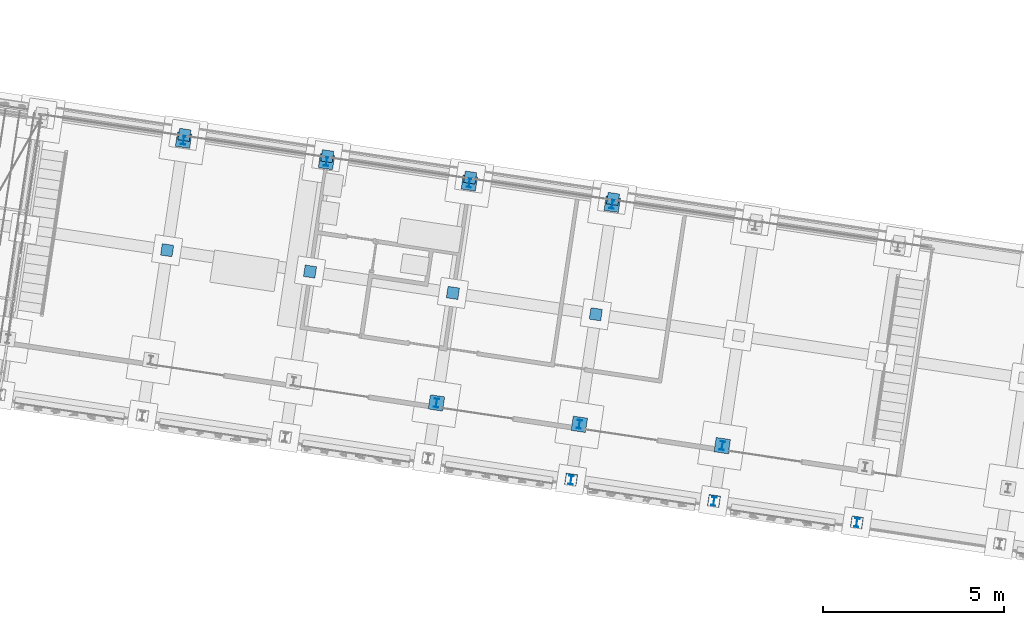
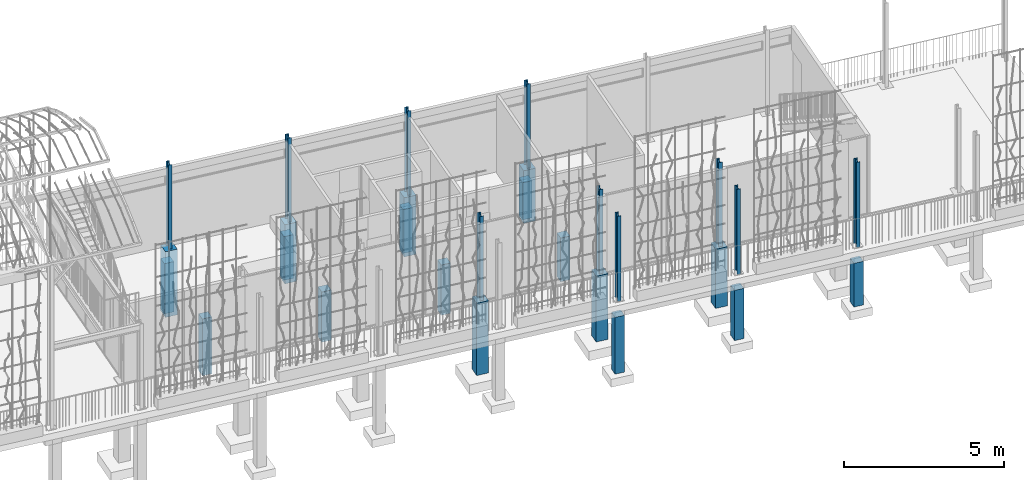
# One storey, part 5 of 143: 28 columns, 1 element without a shape of its own.
"""IFC4 building model written with IfcOpenShell, lengths in metres."""

from ifc_helpers import new_model, si_unit, direction, frame, origin_with_axes, place, context, subcontext, project, spatial, polyline, i_section, outline, extrude, material, material_profile, profile_set, profile_usage, type_object, element, aggregate, save


model = new_model("IFC4")

# Units and contexts
model_context = context("Model", 3, precision=1e-05, world=origin_with_axes(), true_north=direction((0.0, 1.0)))
body_context = subcontext(model_context, "Body", "Model", "MODEL_VIEW")
ifc_project = project(units=[si_unit("VOLUMEUNIT", "CUBIC_METRE"), si_unit("LENGTHUNIT", "METRE"), si_unit("AREAUNIT", "SQUARE_METRE")], contexts=[model_context])

# Site, building, storey
site_placement = place(None, origin_with_axes())
site = spatial("IfcSite", under=ifc_project, at=site_placement, Name="Lares · Rua das Mercês · artigo 4771")
building_placement = place(site_placement, frame((15.0, 9.7, 15.8), z_axis=(0.0, 0.0, 1.0), x_axis=(0.989015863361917, -0.147809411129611, 0.0)))
building = spatial("IfcBuilding", under=site, at=building_placement, Name="Casa Sobreposta")
storey_placement = place(building_placement, origin_with_axes())
storey = spatial("IfcBuildingStorey", under=building, at=storey_placement, Name="00 · Habitação e estacionamento", Elevation=15.8)

# Columns
ifc_material_1 = material(Name="Aço pintado / Stahl lackiert", Category="steel")
ifc_material_profile = material_profile(ifc_material_1, i_section(OverallWidth=0.12, OverallDepth=0.24, WebThickness=0.0062, FlangeThickness=0.0098))
ifc_profile_set = profile_set([ifc_material_profile], Name="IPE240")
ifc_profile_usage_1 = profile_usage(ifc_profile_set)
column_type = type_object("IfcColumnType", Name="IPE240 / steel", PredefinedType="NOTDEFINED", material=ifc_profile_set)
column_1_placement = place(storey_placement, frame((4.0, 6.28, 0.0), z_axis=(0.0, 0.0, 1.0), x_axis=(1.0, 0.0, 0.0)))
element("IfcColumn", 1, at=column_1_placement, inside=storey, type_object=column_type, material=ifc_profile_usage_1, Name="Pilar 2B · IPE240", context=body_context, shape_type="SweptSolid", body=[
    extrude(i_section(OverallWidth=0.12, OverallDepth=0.24, WebThickness=0.0062, FlangeThickness=0.0098), origin_with_axes(), (0.0, 0.0, 1.0), 3.208),
])
ifc_profile_usage_2 = profile_usage(ifc_profile_set)
column_2_placement = place(storey_placement, frame((8.0, 6.28, 0.0), z_axis=(0.0, 0.0, 1.0), x_axis=(1.0, 0.0, 0.0)))
element("IfcColumn", 2, at=column_2_placement, inside=storey, type_object=column_type, material=ifc_profile_usage_2, Name="Pilar 3B · IPE240", context=body_context, shape_type="SweptSolid", body=[
    extrude(i_section(OverallWidth=0.12, OverallDepth=0.24, WebThickness=0.0062, FlangeThickness=0.0098), origin_with_axes(), (0.0, 0.0, 1.0), 3.208),
])
ifc_profile_usage_3 = profile_usage(ifc_profile_set)
column_3_placement = place(storey_placement, frame((12.0, 0.12, 0.0), z_axis=(0.0, 0.0, 1.0), x_axis=(1.0, 0.0, 0.0)))
element("IfcColumn", 3, at=column_3_placement, inside=storey, type_object=column_type, material=ifc_profile_usage_3, Name="Pilar 4A · IPE240", context=body_context, shape_type="SweptSolid", body=[
    extrude(i_section(OverallWidth=0.12, OverallDepth=0.24, WebThickness=0.0062, FlangeThickness=0.0098), origin_with_axes(), (0.0, 0.0, 1.0), 3.208),
])
ifc_profile_usage_4 = profile_usage(ifc_profile_set)
column_4_placement = place(storey_placement, frame((12.0, 6.28, 0.0), z_axis=(0.0, 0.0, 1.0), x_axis=(1.0, 0.0, 0.0)))
element("IfcColumn", 4, at=column_4_placement, inside=storey, type_object=column_type, material=ifc_profile_usage_4, Name="Pilar 4B · IPE240", context=body_context, shape_type="SweptSolid", body=[
    extrude(i_section(OverallWidth=0.12, OverallDepth=0.24, WebThickness=0.0062, FlangeThickness=0.0098), origin_with_axes(), (0.0, 0.0, 1.0), 3.208),
])
ifc_profile_usage_5 = profile_usage(ifc_profile_set)
column_5_placement = place(storey_placement, frame((16.0, 0.12, 0.0), z_axis=(0.0, 0.0, 1.0), x_axis=(1.0, 0.0, 0.0)))
element("IfcColumn", 5, at=column_5_placement, inside=storey, type_object=column_type, material=ifc_profile_usage_5, Name="Pilar 5A · IPE240", context=body_context, shape_type="SweptSolid", body=[
    extrude(i_section(OverallWidth=0.12, OverallDepth=0.24, WebThickness=0.0062, FlangeThickness=0.0098), origin_with_axes(), (0.0, 0.0, 1.0), 3.208),
])
ifc_profile_usage_6 = profile_usage(ifc_profile_set)
column_6_placement = place(storey_placement, frame((16.0, 6.28, 0.0), z_axis=(0.0, 0.0, 1.0), x_axis=(1.0, 0.0, 0.0)))
element("IfcColumn", 6, at=column_6_placement, inside=storey, type_object=column_type, material=ifc_profile_usage_6, Name="Pilar 5B · IPE240", context=body_context, shape_type="SweptSolid", body=[
    extrude(i_section(OverallWidth=0.12, OverallDepth=0.24, WebThickness=0.0062, FlangeThickness=0.0098), origin_with_axes(), (0.0, 0.0, 1.0), 3.208),
])
ifc_profile_usage_7 = profile_usage(ifc_profile_set)
column_7_placement = place(storey_placement, frame((20.0, 0.12, 0.0), z_axis=(0.0, 0.0, 1.0), x_axis=(1.0, 0.0, 0.0)))
element("IfcColumn", 7, at=column_7_placement, inside=storey, type_object=column_type, material=ifc_profile_usage_7, Name="Pilar 6A · IPE240", context=body_context, shape_type="SweptSolid", body=[
    extrude(i_section(OverallWidth=0.12, OverallDepth=0.24, WebThickness=0.0062, FlangeThickness=0.0098), origin_with_axes(), (0.0, 0.0, 1.0), 3.208),
])
ifc_profile_usage_8 = profile_usage(ifc_profile_set)
column_8_placement = place(storey_placement, frame((16.0, -1.44, -0.04), z_axis=(0.0, 0.0, 1.0), x_axis=(1.0, 0.0, 0.0)))
element("IfcColumn", 8, at=column_8_placement, inside=storey, type_object=column_type, material=ifc_profile_usage_8, Name="Projeção estufa · pilar sul ao pódio", context=body_context, shape_type="SweptSolid", body=[
    extrude(i_section(OverallWidth=0.12, OverallDepth=0.24, WebThickness=0.0062, FlangeThickness=0.0098), origin_with_axes(), (0.0, 0.0, 1.0), 3.248),
])
ifc_profile_usage_9 = profile_usage(ifc_profile_set)
column_9_placement = place(storey_placement, frame((20.0, -1.44, -0.04), z_axis=(0.0, 0.0, 1.0), x_axis=(1.0, 0.0, 0.0)))
element("IfcColumn", 9, at=column_9_placement, inside=storey, type_object=column_type, material=ifc_profile_usage_9, Name="Projeção estufa · pilar sul ao pódio", context=body_context, shape_type="SweptSolid", body=[
    extrude(i_section(OverallWidth=0.12, OverallDepth=0.24, WebThickness=0.0062, FlangeThickness=0.0098), origin_with_axes(), (0.0, 0.0, 1.0), 3.248),
])
ifc_profile_usage_10 = profile_usage(ifc_profile_set)
column_10_placement = place(storey_placement, frame((24.0, -1.44, -0.04), z_axis=(0.0, 0.0, 1.0), x_axis=(1.0, 0.0, 0.0)))
element("IfcColumn", 10, at=column_10_placement, inside=storey, type_object=column_type, material=ifc_profile_usage_10, Name="Projeção estufa · pilar sul ao pódio", context=body_context, shape_type="SweptSolid", body=[
    extrude(i_section(OverallWidth=0.12, OverallDepth=0.24, WebThickness=0.0062, FlangeThickness=0.0098), origin_with_axes(), (0.0, 0.0, 1.0), 3.248),
])
ifc_material_2 = material(Name="Betão armado / Stahlbeton", Category="concrete")
column_11_placement = place(storey_placement, frame((0.0, 0.0, -2.5), z_axis=(0.0, 0.0, 1.0), x_axis=(1.0, 0.0, 0.0)))
element("IfcColumn", 11, at=column_11_placement, inside=storey, material=ifc_material_2, Name="Pedestal 2B · betão 400 x 400", context=body_context, shape_type="SweptSolid", body=[
    extrude(outline(polyline([(4.2, 6.08), (4.2, 6.48), (3.8, 6.48), (3.8, 6.08), (4.2, 6.08)])), origin_with_axes(), (0.0, 0.0, 1.0), 2.5),
])
column_12_placement = place(storey_placement, frame((0.0, 0.0, -2.25), z_axis=(0.0, 0.0, 1.0), x_axis=(1.0, 0.0, 0.0)))
element("IfcColumn", 12, at=column_12_placement, inside=storey, material=ifc_material_2, Name="Pedestal 3B · betão 400 x 400", context=body_context, shape_type="SweptSolid", body=[
    extrude(outline(polyline([(8.2, 6.08), (8.2, 6.48), (7.8, 6.48), (7.8, 6.08), (8.2, 6.08)])), origin_with_axes(), (0.0, 0.0, 1.0), 2.25),
])
column_13_placement = place(storey_placement, frame((0.0, 0.0, -2.75), z_axis=(0.0, 0.0, 1.0), x_axis=(1.0, 0.0, 0.0)))
element("IfcColumn", 13, at=column_13_placement, inside=storey, material=ifc_material_2, Name="Pedestal 4A · betão 400 x 400", context=body_context, shape_type="SweptSolid", body=[
    extrude(outline(polyline([(12.2, -0.08), (12.2, 0.32), (11.8, 0.32), (11.8, -0.08), (12.2, -0.08)])), origin_with_axes(), (0.0, 0.0, 1.0), 2.75),
])
column_14_placement = place(storey_placement, frame((0.0, 0.0, -2.25), z_axis=(0.0, 0.0, 1.0), x_axis=(1.0, 0.0, 0.0)))
element("IfcColumn", 14, at=column_14_placement, inside=storey, material=ifc_material_2, Name="Pedestal 4B · betão 400 x 400", context=body_context, shape_type="SweptSolid", body=[
    extrude(outline(polyline([(12.2, 6.08), (12.2, 6.48), (11.8, 6.48), (11.8, 6.08), (12.2, 6.08)])), origin_with_axes(), (0.0, 0.0, 1.0), 2.25),
])
column_15_placement = place(storey_placement, frame((0.0, 0.0, -2.5), z_axis=(0.0, 0.0, 1.0), x_axis=(1.0, 0.0, 0.0)))
element("IfcColumn", 15, at=column_15_placement, inside=storey, material=ifc_material_2, Name="Pedestal 5A · betão 400 x 400", context=body_context, shape_type="SweptSolid", body=[
    extrude(outline(polyline([(16.2, -0.08), (16.2, 0.32), (15.8, 0.32), (15.8, -0.08), (16.2, -0.08)])), origin_with_axes(), (0.0, 0.0, 1.0), 2.5),
])
column_16_placement = place(storey_placement, frame((0.0, 0.0, -2.0), z_axis=(0.0, 0.0, 1.0), x_axis=(1.0, 0.0, 0.0)))
element("IfcColumn", 16, at=column_16_placement, inside=storey, material=ifc_material_2, Name="Pedestal 5B · betão 400 x 400", context=body_context, shape_type="SweptSolid", body=[
    extrude(outline(polyline([(16.2, 6.08), (16.2, 6.48), (15.8, 6.48), (15.8, 6.08), (16.2, 6.08)])), origin_with_axes(), (0.0, 0.0, 1.0), 2.0),
])
column_17_placement = place(storey_placement, frame((0.0, 0.0, -2.25), z_axis=(0.0, 0.0, 1.0), x_axis=(1.0, 0.0, 0.0)))
element("IfcColumn", 17, at=column_17_placement, inside=storey, material=ifc_material_2, Name="Pedestal 6A · betão 400 x 400", context=body_context, shape_type="SweptSolid", body=[
    extrude(outline(polyline([(20.2, -0.08), (20.2, 0.32), (19.8, 0.32), (19.8, -0.08), (20.2, -0.08)])), origin_with_axes(), (0.0, 0.0, 1.0), 2.25),
])

# Assembly, columns
assembly_placement = place(storey_placement, origin_with_axes())
assembly = element("IfcElementAssembly", 18, at=assembly_placement, inside=storey, Name="Pódio · terraço, casa térrea e cisterna", ObjectType="CISTERN_PODIUM", PredefinedType="USERDEFINED")
column_18_placement = place(assembly_placement, frame((0.0, 0.0, -2.75), z_axis=(0.0, 0.0, 1.0), x_axis=(1.0, 0.0, 0.0)))
column_18 = element("IfcColumn", 19, at=column_18_placement, material=ifc_material_2, Name="Pódio suspenso · apoio sobre o terreno", context=body_context, shape_type="SweptSolid", body=[
    extrude(outline(polyline([(4.16, 3.04), (4.16, 3.36), (3.84, 3.36), (3.84, 3.04), (4.16, 3.04)])), origin_with_axes(), (0.0, 0.0, 1.0), 2.16),
])
column_19_placement = place(assembly_placement, frame((0.0, 0.0, -2.5), z_axis=(0.0, 0.0, 1.0), x_axis=(1.0, 0.0, 0.0)))
column_19 = element("IfcColumn", 20, at=column_19_placement, material=ifc_material_2, Name="Pódio suspenso · apoio sobre o terreno", context=body_context, shape_type="SweptSolid", body=[
    extrude(outline(polyline([(4.16, 6.27), (4.16, 6.59), (3.84, 6.59), (3.84, 6.27), (4.16, 6.27)])), origin_with_axes(), (0.0, 0.0, 1.0), 1.91),
])
column_20_placement = place(assembly_placement, frame((0.0, 0.0, -2.5), z_axis=(0.0, 0.0, 1.0), x_axis=(1.0, 0.0, 0.0)))
column_20 = element("IfcColumn", 21, at=column_20_placement, material=ifc_material_2, Name="Pódio suspenso · apoio sobre o terreno", context=body_context, shape_type="SweptSolid", body=[
    extrude(outline(polyline([(8.16, 3.04), (8.16, 3.36), (7.84, 3.36), (7.84, 3.04), (8.16, 3.04)])), origin_with_axes(), (0.0, 0.0, 1.0), 1.91),
])
column_21_placement = place(assembly_placement, frame((0.0, 0.0, -2.25), z_axis=(0.0, 0.0, 1.0), x_axis=(1.0, 0.0, 0.0)))
column_21 = element("IfcColumn", 22, at=column_21_placement, material=ifc_material_2, Name="Pódio suspenso · apoio sobre o terreno", context=body_context, shape_type="SweptSolid", body=[
    extrude(outline(polyline([(8.16, 6.27), (8.16, 6.59), (7.84, 6.59), (7.84, 6.27), (8.16, 6.27)])), origin_with_axes(), (0.0, 0.0, 1.0), 1.66),
])
column_22_placement = place(assembly_placement, frame((0.0, 0.0, -2.5), z_axis=(0.0, 0.0, 1.0), x_axis=(1.0, 0.0, 0.0)))
column_22 = element("IfcColumn", 23, at=column_22_placement, material=ifc_material_2, Name="Pódio suspenso · apoio sobre o terreno", context=body_context, shape_type="SweptSolid", body=[
    extrude(outline(polyline([(12.16, 3.04), (12.16, 3.36), (11.84, 3.36), (11.84, 3.04), (12.16, 3.04)])), origin_with_axes(), (0.0, 0.0, 1.0), 1.91),
])
column_23_placement = place(assembly_placement, frame((0.0, 0.0, -2.25), z_axis=(0.0, 0.0, 1.0), x_axis=(1.0, 0.0, 0.0)))
column_23 = element("IfcColumn", 24, at=column_23_placement, material=ifc_material_2, Name="Pódio suspenso · apoio sobre o terreno", context=body_context, shape_type="SweptSolid", body=[
    extrude(outline(polyline([(12.16, 6.27), (12.16, 6.59), (11.84, 6.59), (11.84, 6.27), (12.16, 6.27)])), origin_with_axes(), (0.0, 0.0, 1.0), 1.66),
])
column_24_placement = place(assembly_placement, frame((0.0, 0.0, -2.75), z_axis=(0.0, 0.0, 1.0), x_axis=(1.0, 0.0, 0.0)))
column_24 = element("IfcColumn", 25, at=column_24_placement, material=ifc_material_2, Name="Pódio suspenso · apoio sobre o terreno", context=body_context, shape_type="SweptSolid", body=[
    extrude(outline(polyline([(16.16, -1.59), (16.16, -1.27), (15.84, -1.27), (15.84, -1.59), (16.16, -1.59)])), origin_with_axes(), (0.0, 0.0, 1.0), 2.16),
])
column_25_placement = place(assembly_placement, frame((0.0, 0.0, -2.25), z_axis=(0.0, 0.0, 1.0), x_axis=(1.0, 0.0, 0.0)))
column_25 = element("IfcColumn", 26, at=column_25_placement, material=ifc_material_2, Name="Pódio suspenso · apoio sobre o terreno", context=body_context, shape_type="SweptSolid", body=[
    extrude(outline(polyline([(16.16, 3.04), (16.16, 3.36), (15.84, 3.36), (15.84, 3.04), (16.16, 3.04)])), origin_with_axes(), (0.0, 0.0, 1.0), 1.66),
])
column_26_placement = place(assembly_placement, frame((0.0, 0.0, -2.0), z_axis=(0.0, 0.0, 1.0), x_axis=(1.0, 0.0, 0.0)))
column_26 = element("IfcColumn", 27, at=column_26_placement, material=ifc_material_2, Name="Pódio suspenso · apoio sobre o terreno", context=body_context, shape_type="SweptSolid", body=[
    extrude(outline(polyline([(16.16, 6.27), (16.16, 6.59), (15.84, 6.59), (15.84, 6.27), (16.16, 6.27)])), origin_with_axes(), (0.0, 0.0, 1.0), 1.41),
])
column_27_placement = place(assembly_placement, frame((0.0, 0.0, -2.5), z_axis=(0.0, 0.0, 1.0), x_axis=(1.0, 0.0, 0.0)))
column_27 = element("IfcColumn", 28, at=column_27_placement, material=ifc_material_2, Name="Pódio suspenso · apoio sobre o terreno", context=body_context, shape_type="SweptSolid", body=[
    extrude(outline(polyline([(20.16, -1.59), (20.16, -1.27), (19.84, -1.27), (19.84, -1.59), (20.16, -1.59)])), origin_with_axes(), (0.0, 0.0, 1.0), 1.91),
])
column_28_placement = place(assembly_placement, frame((0.0, 0.0, -2.25), z_axis=(0.0, 0.0, 1.0), x_axis=(1.0, 0.0, 0.0)))
column_28 = element("IfcColumn", 29, at=column_28_placement, material=ifc_material_2, Name="Pódio suspenso · apoio sobre o terreno", context=body_context, shape_type="SweptSolid", body=[
    extrude(outline(polyline([(24.16, -1.59), (24.16, -1.27), (23.84, -1.27), (23.84, -1.59), (24.16, -1.59)])), origin_with_axes(), (0.0, 0.0, 1.0), 1.66),
])
aggregate(assembly, [column_18, column_19, column_20, column_21, column_22, column_23, column_24, column_25, column_26, column_27, column_28])

save(model, "model.ifc")
